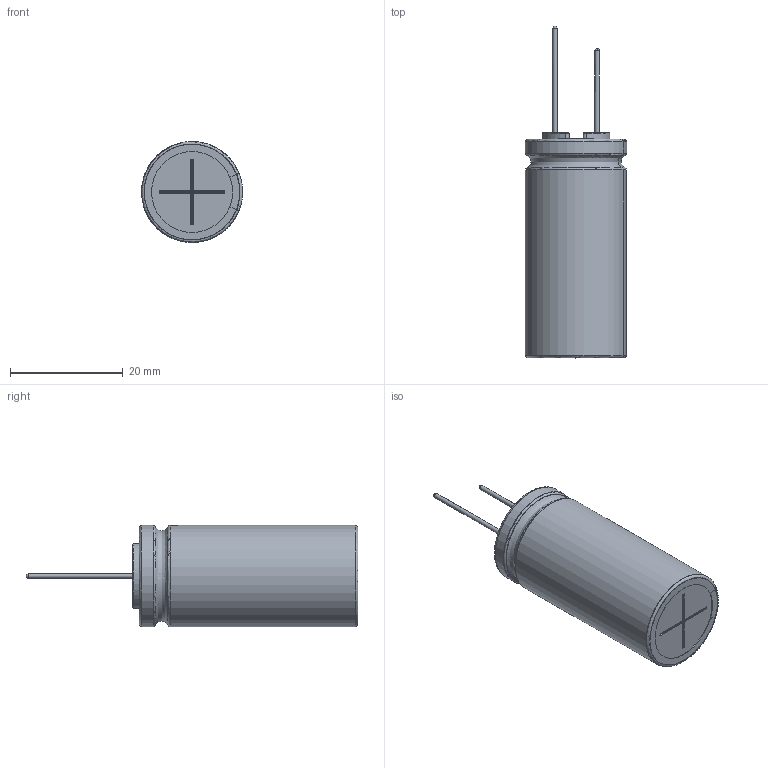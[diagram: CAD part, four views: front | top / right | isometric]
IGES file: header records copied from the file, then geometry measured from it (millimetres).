
Start section: JAMA-IS VERSION  1.0
Bounding box: 17.97 x 59 x 18 mm (x, y, z)
Surface area: 7620.1 mm2 (no closed solid volume)
Topology: 0 solids, 0 shells, 132 faces, 1531 edges, 1512 vertices
Faces by surface type: bspline 132
